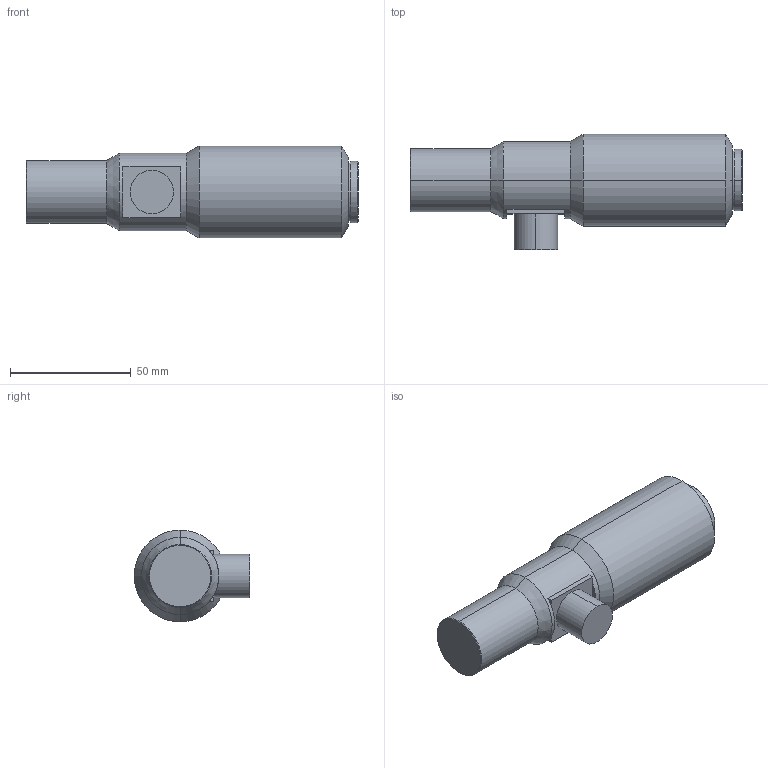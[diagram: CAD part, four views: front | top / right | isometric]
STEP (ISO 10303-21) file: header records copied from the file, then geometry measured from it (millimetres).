
FILE_DESCRIPTION (( 'STEP AP203' ), '1' );
FILE_NAME ('DTCA430-11.5C STEPﾍｼ.STEP', '2019-11-12T08:19:08', ( 'Windows ﾓﾃｻｧ' ), ( '' ), 'SwSTEP 2.0', 'SolidWorks 2017', '' );
FILE_SCHEMA (( 'CONFIG_CONTROL_DESIGN' ));
Length unit declared in the file: millimetre
Products named in the file (1): DTCA430-11.5C STEPͼ
Bounding box: 137.4 x 47.8 x 38 mm (x, y, z)
Volume: 123292.3 mm3; surface area: 16823.8 mm2
Topology: 1 solids, 1 shells, 36 faces, 72 edges, 42 vertices
Faces by surface type: plane 14, cylinder 12, cone 10
Entity records: 1005 total; most frequent: DIRECTION 182, CARTESIAN_POINT 151, ORIENTED_EDGE 144, AXIS2_PLACEMENT_3D 73, EDGE_CURVE 72, VERTEX_POINT 42, EDGE_LOOP 40, ADVANCED_FACE 36
